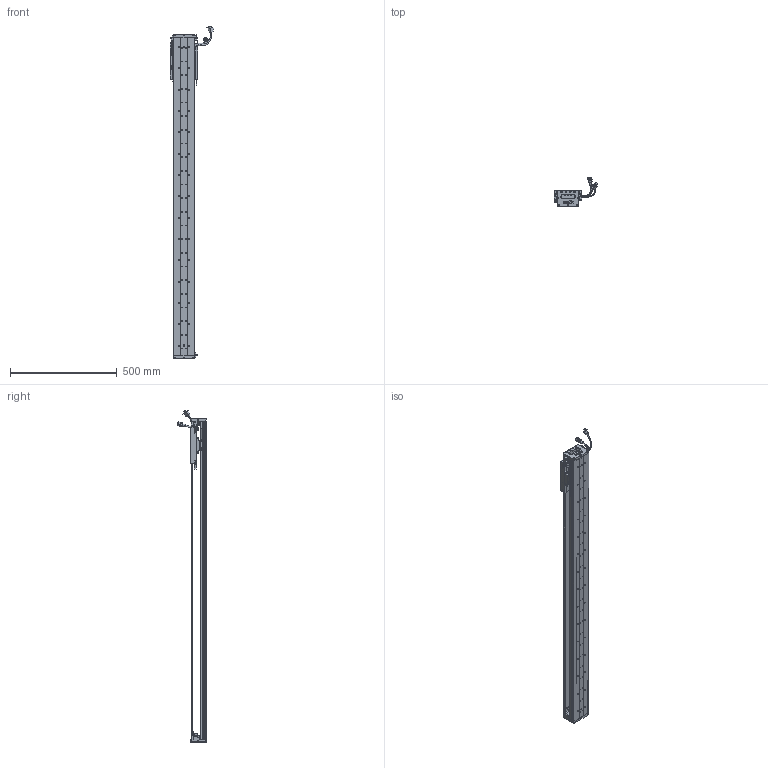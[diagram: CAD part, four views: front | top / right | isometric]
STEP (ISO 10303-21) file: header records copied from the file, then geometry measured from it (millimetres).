
FILE_DESCRIPTION (( 'STEP AP203' ), '1' );
FILE_NAME ('Z2-RY100D-1-L500-B-K.SLDASM_1250.step', '2021-05-17T02:36:09', ( '盈信电脑' ), ( '东莞市道滘镇水果街19号' ), 'SwSTEP 2.0', 'SolidWorks 2016', '' );
FILE_SCHEMA (( 'CONFIG_CONTROL_DESIGN' ));
Length unit declared in the file: millimetre
Products named in the file (36): 140雄赽晤鎢ん堤盄; 080黍杅芛假蚾釱21遴; Z-RY100D詩湍狟揤裔; Z2-RY100-L500詩湍90mm遵_1250; SCREW-M1.6; COVER-Part-1; Z-RY100D覜茼んえ; PSLH080_PSLF2; PBU_SHEET; 100-Z-臏賑輸盄裔(21遴); SCALE-Part-2; Z2-RY100D-500-倰第菁釱_1250; SCREW-M1.6-1; HARNESS-Part-2; LABEL-Part-1; SEAL; 榋妏寠巭燃_暯_M2_2; 覜茼ん672; Z2-RY100D-1-L500-B-K.SLDASM_1250; SHIELDPLATE; SCALE; Z-100詩湍傷裔啣; 140蚥薯蝶輸; HOLDER0; SCREW-M1.7; HARNESS-Part-1; HARNESS; COVER; SCREW-M1.6-3; SCALE-Part-1; Z-RY100D詩湍奻揤裔; SCREW-M1.6-2; SEAL-Part-1; Z2-RY100铝滑块（21款）; SCREW-M1.7-1; LABEL
Assembly tree (43 placements, depth 4):
  Z2-RY100D-1-L500-B-K.SLDASM_1250
    Z2-RY100D-500-倰第菁釱_1250
    Z2-RY100铝滑块（21款）
    PSLH080_PSLF2
      SCALE
        SCALE-Part-1
        SCALE-Part-2
      HARNESS
        HARNESS-Part-1
        HARNESS-Part-2
      LABEL
        LABEL-Part-1
      COVER
        COVER-Part-1
      SEAL
        SEAL-Part-1
      榋妏寠巭燃_暯_M2_2
      SHIELDPLATE
      SCREW-M1.7
      SCREW-M1.7-1
      PBU_SHEET
      SCREW-M1.6
      SCREW-M1.6-1
      SCREW-M1.6-2
      SCREW-M1.6-3
      HOLDER0
    080黍杅芛假蚾釱21遴
    Z-100詩湍傷裔啣  x2
    140蚥薯蝶輸  x2
    覜茼ん672  x3
    Z-RY100D覜茼んえ  x3
    100-Z-臏賑輸盄裔(21遴)
    140雄赽晤鎢ん堤盄
    Z2-RY100-L500詩湍90mm遵_1250
    Z-RY100D詩湍狟揤裔  x2
    Z-RY100D詩湍奻揤裔  x2
Bounding box: 205.83 x 136.11 x 1555.43 mm (x, y, z)
Volume: 3009258.2 mm3; surface area: 1178448.8 mm2
Topology: 38 solids, 38 shells, 2684 faces, 7137 edges, 4532 vertices
Faces by surface type: cylinder 1206, plane 1138, cone 218, torus 69, bspline 53
Entity records: 74429 total; most frequent: CARTESIAN_POINT 15688, DIRECTION 11833, ORIENTED_EDGE 11170, EDGE_CURVE 5585, AXIS2_PLACEMENT_3D 4377, VERTEX_POINT 3600, LINE 3079, VECTOR 3079
